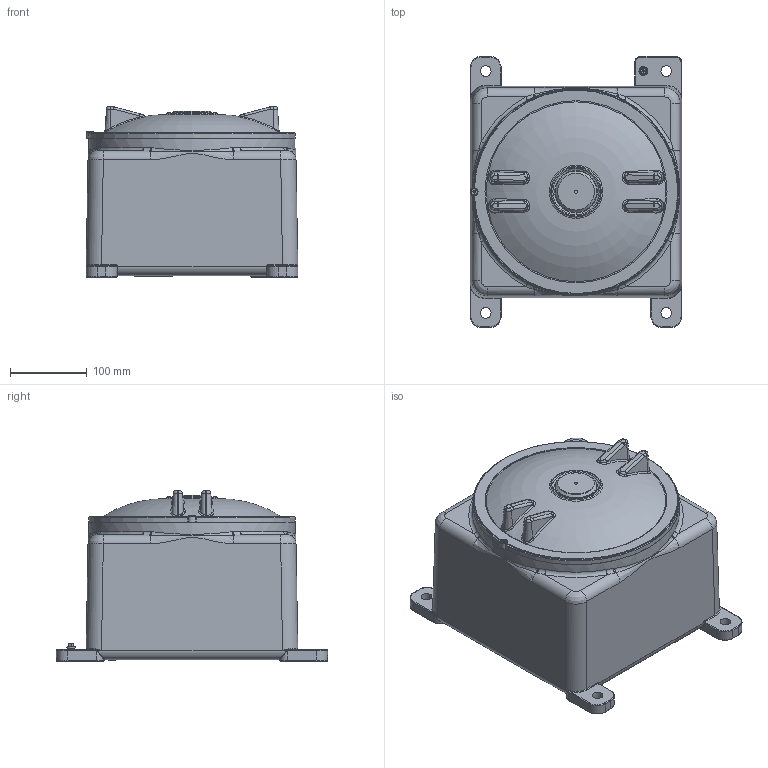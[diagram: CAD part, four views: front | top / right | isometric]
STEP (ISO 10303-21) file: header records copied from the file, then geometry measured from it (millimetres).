
FILE_DESCRIPTION(('STEP AP214'), '1');
FILE_NAME('ﾑﾌﾄ 346400 334 000 _ ﾊﾂﾌﾊ 272722 Exd (ﾎ28)', '', ('UNSPECIFIED'), ('UNSPECIFIED'), 'ASCON STEP Converter 1.3', 'ASCON Math Kernel', '');
FILE_SCHEMA(('AUTOMOTIVE_DESIGN { 1 0 10303 214 3 1 1}'));
Length unit declared in the file: millimetre
Products named in the file (14): ﾑﾌﾄ 346400 334 000 ﾑﾁ; ﾑﾌﾄ 346400 334 001; ﾑﾌﾄ 346400 334 002
Assembly tree (17 placements, depth 3):
  ﾑﾌﾄ 346400 334 000 ﾑﾁ
    ﾑﾌﾄ 346400 334 001
    (unnamed)
    ﾑﾌﾄ 346400 334 002
    (unnamed)  x4
    (unnamed)  x2
    (unnamed)
    (unnamed)
    (unnamed)
    (unnamed)
    (unnamed)
    (unnamed)
      (unnamed)
      (unnamed)
Bounding box: 276.63 x 354.5 x 222.5 mm (x, y, z)
Volume: 4627154.4 mm3; surface area: 808508.3 mm2
Topology: 17 solids, 17 shells, 826 faces, 1988 edges, 1210 vertices
Faces by surface type: plane 323, cylinder 214, bspline 157, cone 62, torus 51, sphere 16, revolution 3
Full cylindrical faces by diameter (mm): 3.242 x1, 3.3 x4, 4 x1, 4.134 x1, 4.2 x2, 5 x7, 5.5 x8, 9.2 x5, 10 x4, 243 x1, 246 x1, 256 x1
Entity records: 48343 total; most frequent: CARTESIAN_POINT 24606, ORIENTED_EDGE 3558, DIRECTION 3097, EDGE_CURVE 1779, AXIS2_PLACEMENT_3D 1134, VERTEX_POINT 1125, EDGE_LOOP 900, LINE 826
